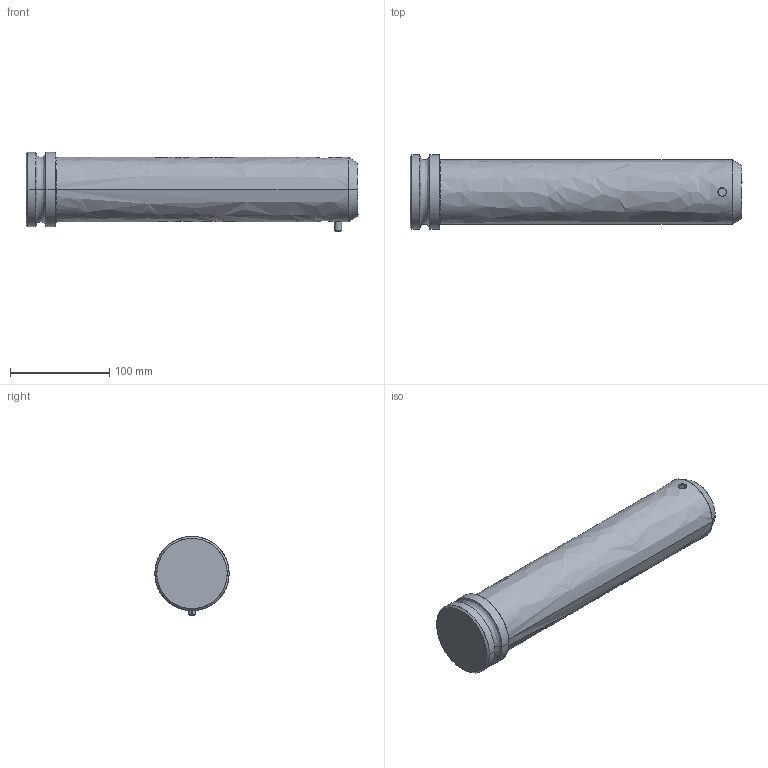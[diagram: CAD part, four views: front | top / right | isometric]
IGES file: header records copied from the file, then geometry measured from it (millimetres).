
Global section: file name: E:\UnigraphicsGraphicData\MISUMI_PRESS-PARTS\IGES\3d_hlfb65_04122_r00.igs; native system: NX V5.0; preprocessor: UGS NX IGES V5.0; author: MISUMI; date: 20110105.161015; units: millimetre
Bounding box: 335 x 75 x 80 mm (x, y, z)
Surface area: 80621.1 mm2 (no closed solid volume)
Topology: 0 solids, 0 shells, 38 faces, 252 edges, 252 vertices
Faces by surface type: bspline 38
